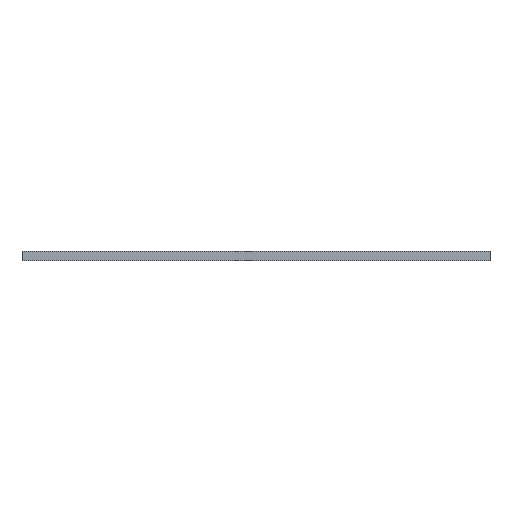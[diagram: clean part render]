
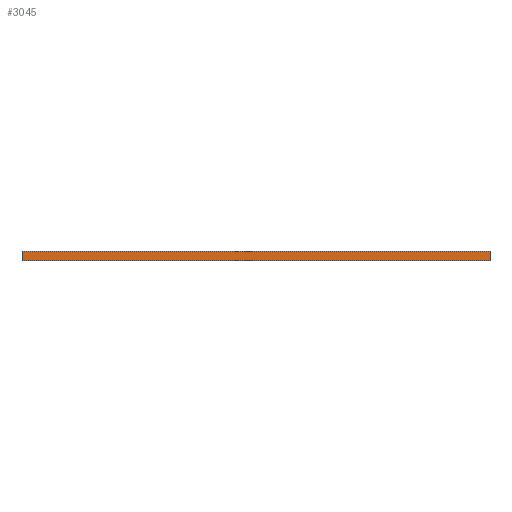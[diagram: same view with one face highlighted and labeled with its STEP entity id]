
A CAD part, front view. The second image highlights one B-rep face of the part: STEP entity #3045.
In plain terms, the highlighted planar face has unit normal (0, -1, 0).
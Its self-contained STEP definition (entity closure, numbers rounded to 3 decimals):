
#235=PLANE('',#3254);
#324=FACE_OUTER_BOUND('',#489,.T.);
#489=EDGE_LOOP('',(#2199,#2200,#2201,#2202));
#700=LINE('',#4234,#993);
#701=LINE('',#4237,#994);
#702=LINE('',#4239,#995);
#703=LINE('',#4240,#996);
#993=VECTOR('',#3582,10.);
#994=VECTOR('',#3585,10.);
#995=VECTOR('',#3586,10.);
#996=VECTOR('',#3587,10.);
#1330=VERTEX_POINT('',#4230);
#1331=VERTEX_POINT('',#4232);
#1332=VERTEX_POINT('',#4236);
#1333=VERTEX_POINT('',#4238);
#1682=EDGE_CURVE('',#1330,#1331,#700,.T.);
#1683=EDGE_CURVE('',#1330,#1332,#701,.T.);
#1684=EDGE_CURVE('',#1333,#1331,#702,.T.);
#1685=EDGE_CURVE('',#1332,#1333,#703,.T.);
#2199=ORIENTED_EDGE('',*,*,#1683,.F.);
#2200=ORIENTED_EDGE('',*,*,#1682,.T.);
#2201=ORIENTED_EDGE('',*,*,#1684,.F.);
#2202=ORIENTED_EDGE('',*,*,#1685,.F.);
#3045=ADVANCED_FACE('',(#324),#235,.T.);
#3254=AXIS2_PLACEMENT_3D('',#4235,#3583,#3584);
#3582=DIRECTION('',(1.,0.,0.));
#3583=DIRECTION('center_axis',(0.,-1.,0.));
#3584=DIRECTION('ref_axis',(0.,0.,-1.));
#3585=DIRECTION('',(0.,0.,1.));
#3586=DIRECTION('',(0.,0.,-1.));
#3587=DIRECTION('',(1.,0.,0.));
#4230=CARTESIAN_POINT('',(0.,-11.,0.5));
#4232=CARTESIAN_POINT('',(1000.,-11.,0.5));
#4234=CARTESIAN_POINT('',(0.,-11.,0.5));
#4235=CARTESIAN_POINT('Origin',(0.,-11.,19.8));
#4236=CARTESIAN_POINT('',(0.,-11.,19.8));
#4237=CARTESIAN_POINT('',(0.,-11.,0.5));
#4238=CARTESIAN_POINT('',(1000.,-11.,19.8));
#4239=CARTESIAN_POINT('',(1000.,-11.,0.5));
#4240=CARTESIAN_POINT('',(0.,-11.,19.8));
